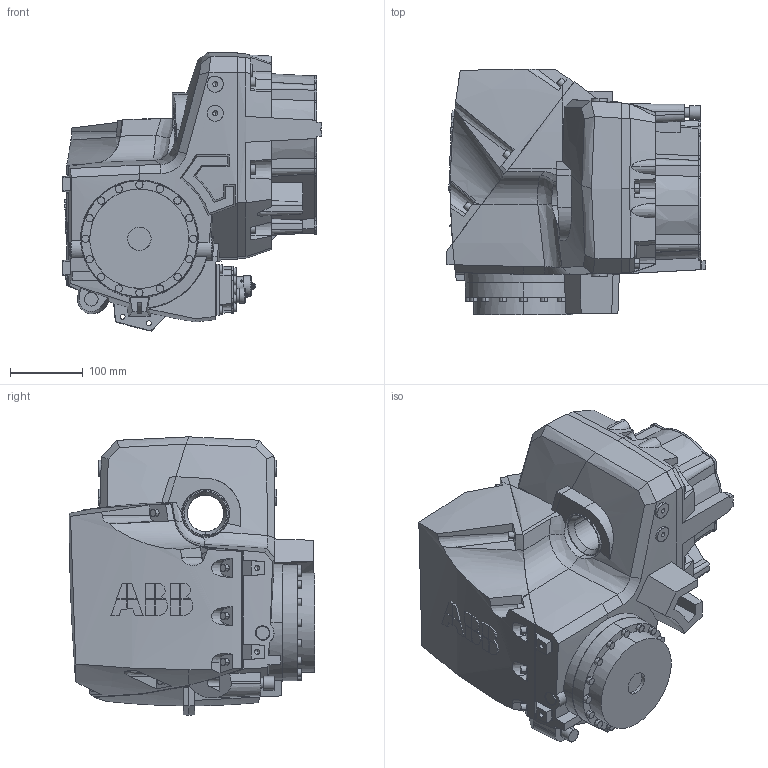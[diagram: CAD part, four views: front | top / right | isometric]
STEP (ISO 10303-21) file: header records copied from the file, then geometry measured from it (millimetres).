
FILE_DESCRIPTION (( 'STEP AP214' ), '1' );
FILE_NAME ('IRB2600ID_15kg-185_LINK3_CAD_rev02.STEP', '2016-12-02T13:00:20', ( 'ABB' ), ( 'ABB' ), 'SwSTEP 2.0', 'SolidWorks 2014', '' );
FILE_SCHEMA (( 'AUTOMOTIVE_DESIGN' ));
Length unit declared in the file: millimetre
Products named in the file (1): IRB2600ID_15kg-185_LINK3_CAD_rev02
Bounding box: 355.63 x 337 x 381.84 mm (x, y, z)
Volume: 20375108.7 mm3; surface area: 645361.2 mm2
Topology: 2 solids, 2 shells, 919 faces, 2634 edges, 1804 vertices
Faces by surface type: plane 478, cylinder 238, cone 126, bspline 49, torus 28
Entity records: 52257 total; most frequent: CARTESIAN_POINT 29445, ORIENTED_EDGE 5236, DIRECTION 3214, EDGE_CURVE 2618, VERTEX_POINT 1804, B_SPLINE_CURVE_WITH_KNOTS 1249, LINE 1218, VECTOR 1218
